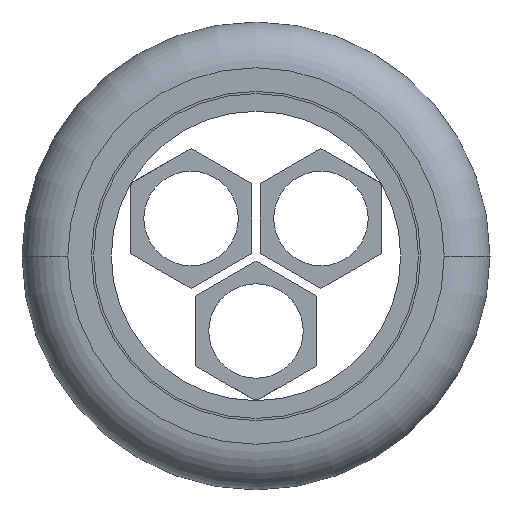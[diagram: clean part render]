
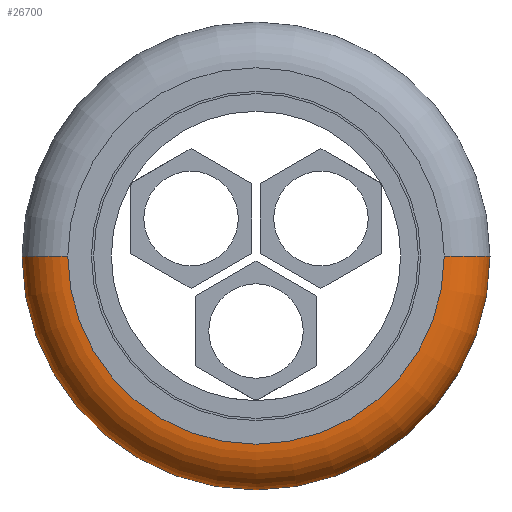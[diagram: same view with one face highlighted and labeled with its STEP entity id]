
A CAD part, front view. The second image highlights one B-rep face of the part: STEP entity #26700.
In plain terms, the highlighted toroidal (fillet/blend) face has major radius 12.75 mm and minor radius 3.1 mm.
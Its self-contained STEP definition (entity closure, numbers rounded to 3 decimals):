
#26160=CARTESIAN_POINT('',(-319.291,12.935,0.));
#26170=DIRECTION('',(0.,-1.,0.));
#26180=DIRECTION('',(1.,0.,0.));
#26190=AXIS2_PLACEMENT_3D('',#26160,#26170,#26180);
#26200=CIRCLE('',#26190,12.75);
#26210=CARTESIAN_POINT('',(-306.541,12.935,0.));
#26220=VERTEX_POINT('',#26210);
#26230=CARTESIAN_POINT('',(-332.041,12.935,0.));
#26240=VERTEX_POINT('',#26230);
#26270=EDGE_CURVE('',#26240,#26220,#26200,.T.);
#26370=CARTESIAN_POINT('',(-319.291,16.035,0.));
#26380=DIRECTION('',(0.,-1.,0.));
#26390=DIRECTION('',(1.,0.,0.));
#26400=AXIS2_PLACEMENT_3D('',#26370,#26380,#26390);
#26410=TOROIDAL_SURFACE('',#26400,12.75,3.1);
#26420=CARTESIAN_POINT('',(-332.041,16.035,0.));
#26430=DIRECTION('',(0.,0.,-1.));
#26440=DIRECTION('',(1.,0.,0.));
#26450=AXIS2_PLACEMENT_3D('',#26420,#26430,#26440);
#26460=CIRCLE('',#26450,3.1);
#26470=CARTESIAN_POINT('',(-335.141,16.035,0.));
#26480=VERTEX_POINT('',#26470);
#26490=EDGE_CURVE('',#26240,#26480,#26460,.T.);
#26500=ORIENTED_EDGE('',*,*,#26490,.T.);
#26510=ORIENTED_EDGE('',*,*,#26270,.F.);
#26520=CARTESIAN_POINT('',(-306.541,16.035,0.));
#26530=DIRECTION('',(0.,0.,1.));
#26540=DIRECTION('',(-1.,0.,0.));
#26550=AXIS2_PLACEMENT_3D('',#26520,#26530,#26540);
#26560=CIRCLE('',#26550,3.1);
#26570=CARTESIAN_POINT('',(-303.441,16.035,0.));
#26580=VERTEX_POINT('',#26570);
#26590=EDGE_CURVE('',#26220,#26580,#26560,.T.);
#26600=ORIENTED_EDGE('',*,*,#26590,.F.);
#26610=CARTESIAN_POINT('',(-319.291,16.035,0.));
#26620=DIRECTION('',(0.,-1.,0.));
#26630=DIRECTION('',(1.,0.,0.));
#26640=AXIS2_PLACEMENT_3D('',#26610,#26620,#26630);
#26650=CIRCLE('',#26640,15.85);
#26660=EDGE_CURVE('',#26480,#26580,#26650,.T.);
#26670=ORIENTED_EDGE('',*,*,#26660,.T.);
#26680=EDGE_LOOP('',(#26670,#26600,#26510,#26500));
#26690=FACE_OUTER_BOUND('',#26680,.T.);
#26700=ADVANCED_FACE('',(#26690),#26410,.T.);
